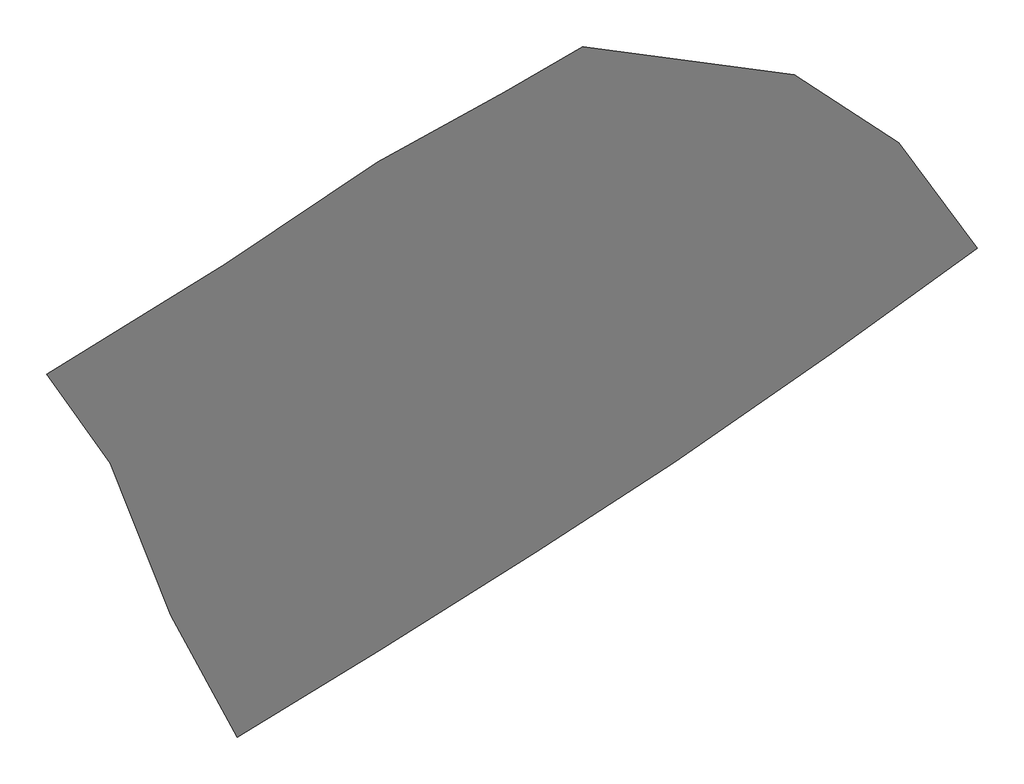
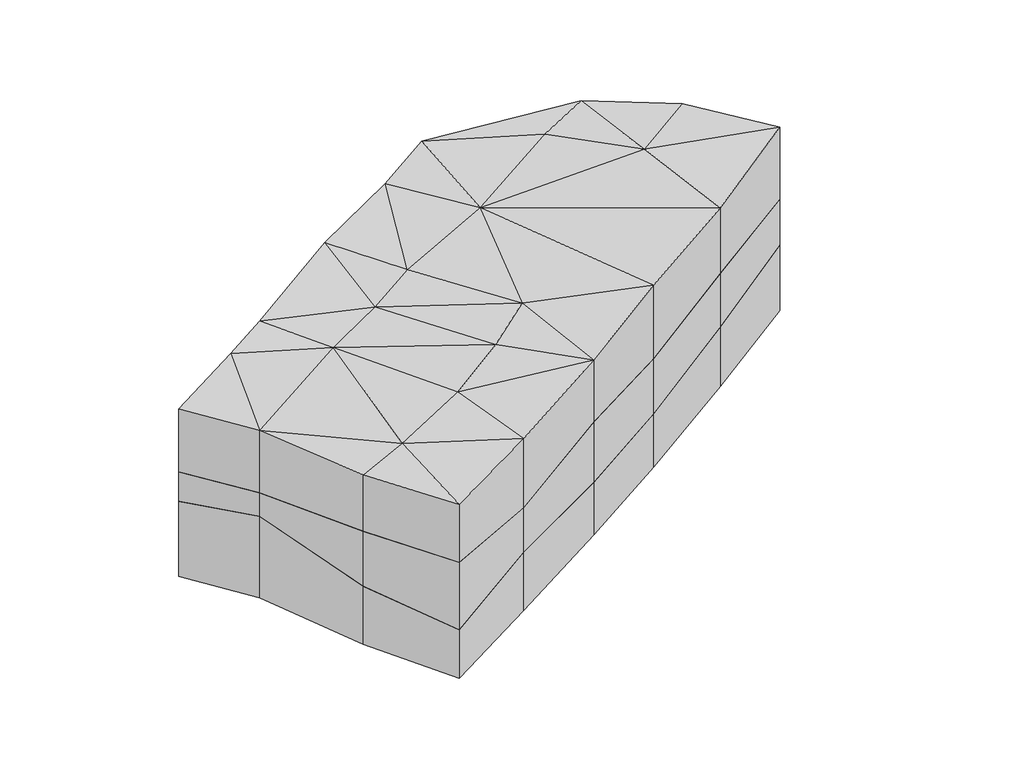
# One storey: 3 proxies.
"""IFC4 building model written with IfcOpenShell, lengths in millimetres."""

from ifc_helpers import new_model, si_unit, origin, place, context, project, spatial, transform, mapped, element, save
from components import proxy_01_01_e80e8e62, proxy_02_02_8a4e72ec, proxy_03_03_c8344aab

model = new_model("IFC4")

# Units and contexts
model_context = context("Model", 3, world=origin())
ifc_project = project(units=[si_unit("LENGTHUNIT", "METRE", prefix="MILLI")], contexts=[model_context])

# Site, building, storey
site = spatial("IfcSite", under=ifc_project)
building = spatial("IfcBuilding", under=site)
storey = spatial("IfcBuildingStorey", under=building, Name="标高 1", Elevation=0.0)

# Proxies
placement = place(None, origin())
proxy_01_01_shape = proxy_01_01_e80e8e62(model_context)
element("IfcBuildingElementProxy", 1, Name="01 : 01", ObjectType="01 : 01", at=placement, inside=storey, context=model_context, shape_type="MappedRepresentation", body=[
    mapped(proxy_01_01_shape, transform((-106998.9500001, -79388.4999995, -15130.0000001), x_axis=(1.0, 0.0, 0.0), y_axis=(0.0, 1.0, 0.0), z_axis=(0.0, 0.0, 1.0))),
])
proxy_02_02_shape = proxy_02_02_8a4e72ec(model_context)
element("IfcBuildingElementProxy", 2, Name="02 : 02", ObjectType="02 : 02", at=placement, inside=storey, context=model_context, shape_type="MappedRepresentation", body=[
    mapped(proxy_02_02_shape, transform((-106998.9500001, -79388.4999995, -37120.0), x_axis=(1.0, 0.0, 0.0), y_axis=(0.0, 1.0, 0.0), z_axis=(0.0, 0.0, 1.0))),
])
proxy_03_03_shape = proxy_03_03_c8344aab(model_context)
element("IfcBuildingElementProxy", 3, Name="03 : 03", ObjectType="03 : 03", at=placement, inside=storey, context=model_context, shape_type="MappedRepresentation", body=[
    mapped(proxy_03_03_shape, transform((-106998.9500001, -79388.4999995, -50000.0), x_axis=(1.0, 0.0, 0.0), y_axis=(0.0, 1.0, 0.0), z_axis=(0.0, 0.0, 1.0))),
])

save(model, "model.ifc")
